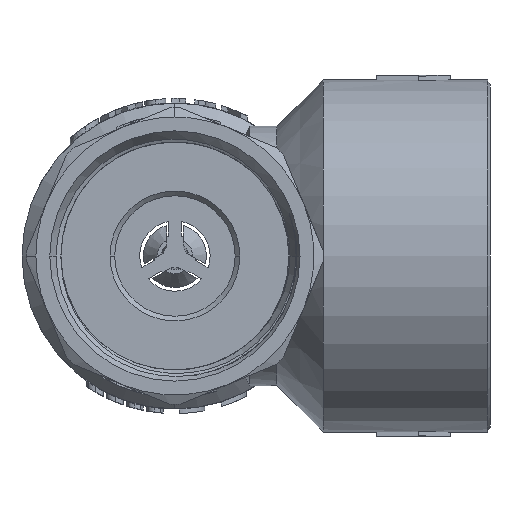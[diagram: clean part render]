
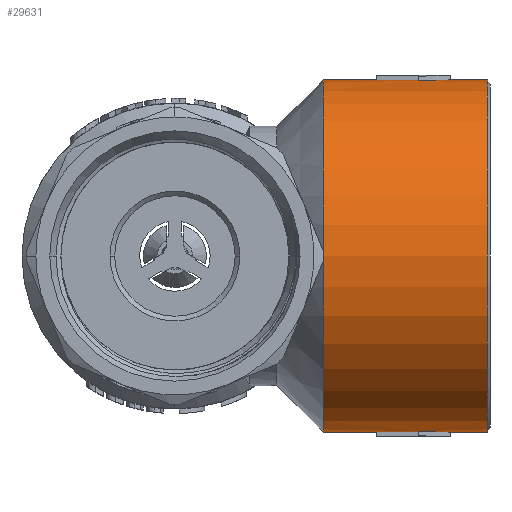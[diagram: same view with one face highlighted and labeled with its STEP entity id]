
A CAD part, front view. The second image highlights one B-rep face of the part: STEP entity #29631.
In plain terms, the highlighted cylindrical face has radius 19 mm (diameter 38 mm), a partial arc.
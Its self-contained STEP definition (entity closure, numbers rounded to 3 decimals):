
#494 = ORIENTED_EDGE ( 'NONE', *, *, #28934, .T. ) ;
#637 = EDGE_CURVE ( 'NONE', #34753, #4436, #26549, .T. ) ;
#773 = DIRECTION ( 'NONE',  ( -1., 0., 0. ) ) ;
#1309 = EDGE_CURVE ( 'NONE', #6180, #36733, #19504, .T. ) ;
#1911 = DIRECTION ( 'NONE',  ( 0., 0., -1. ) ) ;
#3281 = CARTESIAN_POINT ( 'NONE',  ( 26.294, -0.975, -18.975 ) ) ;
#3408 = VECTOR ( 'NONE', #33096, 1000. ) ;
#4071 = DIRECTION ( 'NONE',  ( 0., 0., 1. ) ) ;
#4133 = CARTESIAN_POINT ( 'NONE',  ( 0., 0., 19. ) ) ;
#4179 = CARTESIAN_POINT ( 'NONE',  ( 0., 0., 19. ) ) ;
#4237 = AXIS2_PLACEMENT_3D ( 'NONE', #11181, #40939, #11422 ) ;
#4313 = DIRECTION ( 'NONE',  ( -1., 0., 0. ) ) ;
#4436 = VERTEX_POINT ( 'NONE', #12989 ) ;
#4523 = DIRECTION ( 'NONE',  ( 0., 0., -1. ) ) ;
#4739 = CARTESIAN_POINT ( 'NONE',  ( 21.758, -0.975, -18.975 ) ) ;
#4852 = VECTOR ( 'NONE', #773, 1000. ) ;
#5763 = CARTESIAN_POINT ( 'NONE',  ( 28.573, -0.66, -19. ) ) ;
#5827 = DIRECTION ( 'NONE',  ( 0., 0., 1. ) ) ;
#5940 = DIRECTION ( 'NONE',  ( -1., 0., 0. ) ) ;
#6180 = VERTEX_POINT ( 'NONE', #47573 ) ;
#6743 = ORIENTED_EDGE ( 'NONE', *, *, #29478, .T. ) ;
#6977 = VECTOR ( 'NONE', #7552, 1000. ) ;
#7552 = DIRECTION ( 'NONE',  ( -1., 0., 0. ) ) ;
#8214 = CARTESIAN_POINT ( 'NONE',  ( 26.294, -1.975, 18.897 ) ) ;
#9408 = CARTESIAN_POINT ( 'NONE',  ( 33.711, 0., -19. ) ) ;
#9566 = AXIS2_PLACEMENT_3D ( 'NONE', #27984, #17254, #5827 ) ;
#9709 = EDGE_CURVE ( 'NONE', #38217, #36333, #47663, .T. ) ;
#9911 = VERTEX_POINT ( 'NONE', #9408 ) ;
#10305 = ORIENTED_EDGE ( 'NONE', *, *, #1309, .T. ) ;
#10353 = AXIS2_PLACEMENT_3D ( 'NONE', #41229, #33929, #19024 ) ;
#10357 =( BOUNDED_CURVE ( )  B_SPLINE_CURVE ( 3, ( #22555, #41571, #22782, #8214 ),
 .UNSPECIFIED., .F., .T. ) 
 B_SPLINE_CURVE_WITH_KNOTS ( ( 4, 4 ),
 ( 4.712, 4.817 ),
 .UNSPECIFIED. ) 
 CURVE ( )  GEOMETRIC_REPRESENTATION_ITEM ( )  RATIONAL_B_SPLINE_CURVE ( ( 1., 0.999, 0.999, 1. ) ) 
 REPRESENTATION_ITEM ( '' )  );
#10363 = EDGE_CURVE ( 'NONE', #25099, #38217, #36138, .T. ) ;
#10521 = VECTOR ( 'NONE', #45522, 1000. ) ;
#10772 = VECTOR ( 'NONE', #5940, 1000. ) ;
#11181 = CARTESIAN_POINT ( 'NONE',  ( 21.758, 0., 0. ) ) ;
#11422 = DIRECTION ( 'NONE',  ( 0., 0., 1. ) ) ;
#12912 = CARTESIAN_POINT ( 'NONE',  ( 26.294, 0., 0. ) ) ;
#12989 = CARTESIAN_POINT ( 'NONE',  ( 26.294, -1.975, -18.897 ) ) ;
#13399 = CARTESIAN_POINT ( 'NONE',  ( 16., 0., -19. ) ) ;
#13821 = LINE ( 'NONE', #43551, #3408 ) ;
#14544 = DIRECTION ( 'NONE',  ( 0., 0., 1. ) ) ;
#14608 =( BOUNDED_CURVE ( )  B_SPLINE_CURVE ( 3, ( #47129, #39151, #5763, #46890 ),
 .UNSPECIFIED., .F., .F. ) 
 B_SPLINE_CURVE_WITH_KNOTS ( ( 4, 4 ),
 ( 1.467, 1.571 ),
 .UNSPECIFIED. ) 
 CURVE ( )  GEOMETRIC_REPRESENTATION_ITEM ( )  RATIONAL_B_SPLINE_CURVE ( ( 1., 0.999, 0.999, 1. ) ) 
 REPRESENTATION_ITEM ( '' )  );
#14850 = CARTESIAN_POINT ( 'NONE',  ( 0., 0., -19. ) ) ;
#15626 = CARTESIAN_POINT ( 'NONE',  ( 21.758, 0., -19. ) ) ;
#16099 = FACE_OUTER_BOUND ( 'NONE', #23162, .T. ) ;
#17094 = VERTEX_POINT ( 'NONE', #45600 ) ;
#17254 = DIRECTION ( 'NONE',  ( -1., 0., 0. ) ) ;
#17278 = CARTESIAN_POINT ( 'NONE',  ( 16., -19., 0. ) ) ;
#17892 = ORIENTED_EDGE ( 'NONE', *, *, #46009, .T. ) ;
#18110 = ORIENTED_EDGE ( 'NONE', *, *, #24079, .T. ) ;
#18883 = DIRECTION ( 'NONE',  ( -1., 0., 0. ) ) ;
#19024 = DIRECTION ( 'NONE',  ( 0., 0., 1. ) ) ;
#19370 = CARTESIAN_POINT ( 'NONE',  ( 16., 0., 0. ) ) ;
#19504 = LINE ( 'NONE', #4179, #4852 ) ;
#19597 = EDGE_CURVE ( 'NONE', #20896, #27154, #23654, .T. ) ;
#19723 = CARTESIAN_POINT ( 'NONE',  ( 26.294, -0.975, 18.975 ) ) ;
#20199 = EDGE_CURVE ( 'NONE', #20896, #34753, #25131, .T. ) ;
#20896 = VERTEX_POINT ( 'NONE', #4739 ) ;
#21348 = EDGE_CURVE ( 'NONE', #17094, #36333, #34122, .T. ) ;
#21389 = VERTEX_POINT ( 'NONE', #22870 ) ;
#21847 = DIRECTION ( 'NONE',  ( -1., 0., 0. ) ) ;
#21878 = VERTEX_POINT ( 'NONE', #46599 ) ;
#22555 = CARTESIAN_POINT ( 'NONE',  ( 29.716, 0., 19. ) ) ;
#22782 = CARTESIAN_POINT ( 'NONE',  ( 27.431, -1.319, 18.966 ) ) ;
#22870 = CARTESIAN_POINT ( 'NONE',  ( 21.758, -0.975, 18.975 ) ) ;
#23156 = CYLINDRICAL_SURFACE ( 'NONE', #30592, 19. ) ;
#23162 = EDGE_LOOP ( 'NONE', ( #38807, #37215, #10305, #494, #6743, #18110, #17892, #26621, #27339, #29492, #26193, #39330, #27784, #31079, #42833 ) ) ;
#23591 = AXIS2_PLACEMENT_3D ( 'NONE', #32596, #35326, #1911 ) ;
#23654 = CIRCLE ( 'NONE', #4237, 19. ) ;
#24079 = EDGE_CURVE ( 'NONE', #37294, #21389, #39802, .T. ) ;
#24166 = CARTESIAN_POINT ( 'NONE',  ( 0., -0.975, 18.975 ) ) ;
#24639 = EDGE_CURVE ( 'NONE', #4436, #29840, #14608, .T. ) ;
#25099 = VERTEX_POINT ( 'NONE', #13399 ) ;
#25131 = LINE ( 'NONE', #47780, #35386 ) ;
#26193 = ORIENTED_EDGE ( 'NONE', *, *, #27345, .F. ) ;
#26549 = CIRCLE ( 'NONE', #39039, 19. ) ;
#26621 = ORIENTED_EDGE ( 'NONE', *, *, #21348, .T. ) ;
#27154 = VERTEX_POINT ( 'NONE', #15626 ) ;
#27338 = CIRCLE ( 'NONE', #9566, 19. ) ;
#27339 = ORIENTED_EDGE ( 'NONE', *, *, #9709, .F. ) ;
#27345 = EDGE_CURVE ( 'NONE', #27154, #25099, #48199, .T. ) ;
#27779 = DIRECTION ( 'NONE',  ( -1., 0., 0. ) ) ;
#27784 = ORIENTED_EDGE ( 'NONE', *, *, #20199, .T. ) ;
#27984 = CARTESIAN_POINT ( 'NONE',  ( 33.711, 0., 0. ) ) ;
#28934 = EDGE_CURVE ( 'NONE', #36733, #21878, #10357, .T. ) ;
#29478 = EDGE_CURVE ( 'NONE', #21878, #37294, #42232, .T. ) ;
#29492 = ORIENTED_EDGE ( 'NONE', *, *, #10363, .F. ) ;
#29631 = ADVANCED_FACE ( 'NONE', ( #16099 ), #23156, .T. ) ;
#29840 = VERTEX_POINT ( 'NONE', #32734 ) ;
#30592 = AXIS2_PLACEMENT_3D ( 'NONE', #40643, #21847, #14544 ) ;
#31079 = ORIENTED_EDGE ( 'NONE', *, *, #637, .T. ) ;
#32596 = CARTESIAN_POINT ( 'NONE',  ( 16., 0., 0. ) ) ;
#32734 = CARTESIAN_POINT ( 'NONE',  ( 29.716, 0., -19. ) ) ;
#32856 = CIRCLE ( 'NONE', #39088, 19. ) ;
#32922 = AXIS2_PLACEMENT_3D ( 'NONE', #19370, #18883, #4523 ) ;
#33096 = DIRECTION ( 'NONE',  ( -1., 0., 0. ) ) ;
#33492 = EDGE_CURVE ( 'NONE', #9911, #29840, #13821, .T. ) ;
#33929 = DIRECTION ( 'NONE',  ( -1., 0., 0. ) ) ;
#34122 = LINE ( 'NONE', #4133, #10521 ) ;
#34753 = VERTEX_POINT ( 'NONE', #3281 ) ;
#34907 = DIRECTION ( 'NONE',  ( 0., 0., 1. ) ) ;
#35326 = DIRECTION ( 'NONE',  ( -1., 0., 0. ) ) ;
#35386 = VECTOR ( 'NONE', #40040, 1000. ) ;
#36138 = CIRCLE ( 'NONE', #23591, 19. ) ;
#36333 = VERTEX_POINT ( 'NONE', #47323 ) ;
#36733 = VERTEX_POINT ( 'NONE', #39885 ) ;
#37215 = ORIENTED_EDGE ( 'NONE', *, *, #45315, .T. ) ;
#37294 = VERTEX_POINT ( 'NONE', #19723 ) ;
#38217 = VERTEX_POINT ( 'NONE', #17278 ) ;
#38807 = ORIENTED_EDGE ( 'NONE', *, *, #33492, .F. ) ;
#39039 = AXIS2_PLACEMENT_3D ( 'NONE', #12912, #27779, #34907 ) ;
#39088 = AXIS2_PLACEMENT_3D ( 'NONE', #45466, #4313, #4071 ) ;
#39151 = CARTESIAN_POINT ( 'NONE',  ( 27.431, -1.319, -18.966 ) ) ;
#39330 = ORIENTED_EDGE ( 'NONE', *, *, #19597, .F. ) ;
#39802 = LINE ( 'NONE', #24166, #10772 ) ;
#39885 = CARTESIAN_POINT ( 'NONE',  ( 29.716, 0., 19. ) ) ;
#40040 = DIRECTION ( 'NONE',  ( 1., 0., 0. ) ) ;
#40643 = CARTESIAN_POINT ( 'NONE',  ( 0., 0., 0. ) ) ;
#40939 = DIRECTION ( 'NONE',  ( 1., 0., 0. ) ) ;
#41229 = CARTESIAN_POINT ( 'NONE',  ( 26.294, 0., 0. ) ) ;
#41571 = CARTESIAN_POINT ( 'NONE',  ( 28.573, -0.66, 19. ) ) ;
#42232 = CIRCLE ( 'NONE', #10353, 19. ) ;
#42833 = ORIENTED_EDGE ( 'NONE', *, *, #24639, .T. ) ;
#43551 = CARTESIAN_POINT ( 'NONE',  ( 0., 0., -19. ) ) ;
#45315 = EDGE_CURVE ( 'NONE', #9911, #6180, #27338, .T. ) ;
#45466 = CARTESIAN_POINT ( 'NONE',  ( 21.758, 0., 0. ) ) ;
#45522 = DIRECTION ( 'NONE',  ( -1., 0., 0. ) ) ;
#45600 = CARTESIAN_POINT ( 'NONE',  ( 21.758, 0., 19. ) ) ;
#46009 = EDGE_CURVE ( 'NONE', #21389, #17094, #32856, .T. ) ;
#46599 = CARTESIAN_POINT ( 'NONE',  ( 26.294, -1.975, 18.897 ) ) ;
#46890 = CARTESIAN_POINT ( 'NONE',  ( 29.716, 0., -19. ) ) ;
#47129 = CARTESIAN_POINT ( 'NONE',  ( 26.294, -1.975, -18.897 ) ) ;
#47323 = CARTESIAN_POINT ( 'NONE',  ( 16., 0., 19. ) ) ;
#47573 = CARTESIAN_POINT ( 'NONE',  ( 33.711, 0., 19. ) ) ;
#47663 = CIRCLE ( 'NONE', #32922, 19. ) ;
#47780 = CARTESIAN_POINT ( 'NONE',  ( 0., -0.975, -18.975 ) ) ;
#48199 = LINE ( 'NONE', #14850, #6977 ) ;
